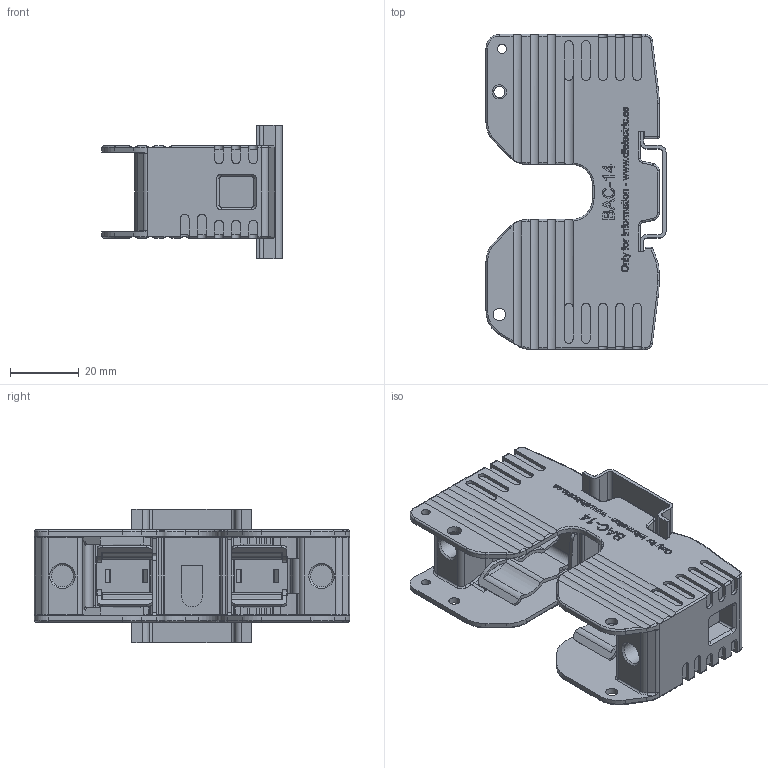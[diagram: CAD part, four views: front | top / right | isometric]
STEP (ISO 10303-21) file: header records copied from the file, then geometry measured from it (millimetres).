
FILE_DESCRIPTION(/* description */ (''),/* implementation_level */ '2;1');
FILE_NAME(/* name */ 'REP_BAC-14_INFO_3D_COMERCIAL.stp',/* time_stamp */ '2020-11-13T10:45:20+01:00',/* author */ (''),/* organization */ (''),/* preprocessor_version */ 'ST-DEVELOPER v16',/* originating_system */ 'SIEMENS PLM Software NX 11.0',/* authorisation */ '');
FILE_SCHEMA (('AUTOMOTIVE_DESIGN { 1 0 10303 214 3 1 1 1 }'));
Length unit declared in the file: millimetre
Products named in the file (1): REP_BAC-14_INFO_3D_COMERCIAL
Bounding box: 52.54 x 92 x 38.9 mm (x, y, z)
Volume: 53035.4 mm3; surface area: 35522.9 mm2
Topology: 4 solids, 4 shells, 1292 faces, 3414 edges, 2167 vertices
Faces by surface type: plane 658, cylinder 390, extrusion 131, torus 67, sphere 30, cone 10, bspline 6
Full cylindrical faces by diameter (mm): 2.6 x2, 3.2 x1, 3.6 x2, 4.2 x1, 6.4 x2
Entity records: 43614 total; most frequent: CARTESIAN_POINT 12314, ORIENTED_EDGE 6738, DIRECTION 6035, EDGE_CURVE 3369, VERTEX_POINT 2162, VECTOR 2115, LINE 1984, AXIS2_PLACEMENT_3D 1960
